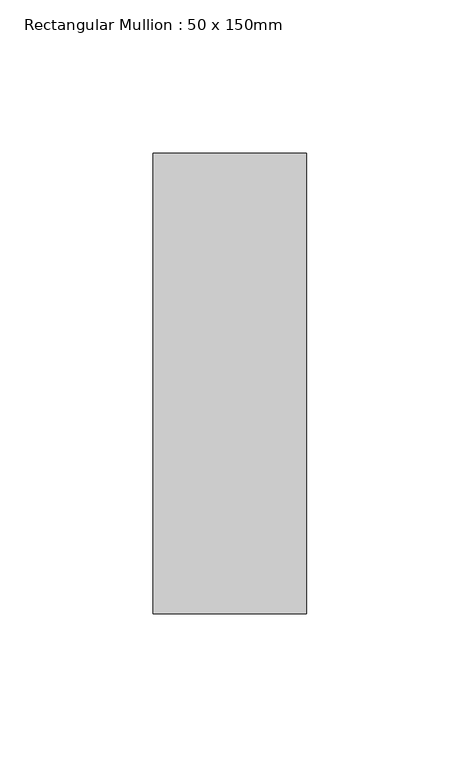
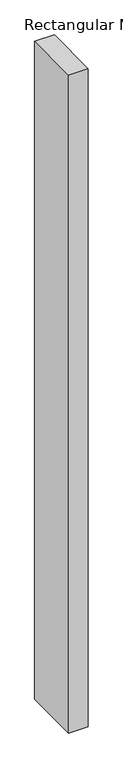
"""IFC4 building model written with IfcOpenShell, lengths in millimetres: member geometry, Rectangular Mullion : 50 x 150mm."""

from ifc_helpers import new_model, si_unit, frame, origin, place, context, project, spatial, polyline, outline, extrude, source, transform, mapped, element, save


def rectangular_mullion_50_x_150mm_dde72c10(model_context):
    return source(origin(), model_context, "Body", "SweptSolid", [
        extrude(outline(polyline([(0.0, 0.0), (0.0895406, -50.0), (-1774.6412205, -50.0), (-1774.5838337, 0.0), (0.0, 0.0)])), frame((0.0, -75.0, 0.0), z_axis=(0.0, 1.0, 0.0), x_axis=(0.0, 0.0, 1.0)), (0.0, 0.0, 1.0), 150.0),
    ])


if __name__ == "__main__":
    model = new_model("IFC4")
    model_context = context("Model", 3, world=origin())
    ifc_project = project(units=[si_unit("LENGTHUNIT", "METRE", prefix="MILLI")], contexts=[model_context])
    site = spatial("IfcSite", under=ifc_project)
    building = spatial("IfcBuilding", under=site)
    placement = place(None, origin())
    rectangular_mullion_50_x_150mm_shape = rectangular_mullion_50_x_150mm_dde72c10(model_context)
    element("IfcMember", 1, ObjectType="Rectangular Mullion : 50 x 150mm", at=placement, inside=building, context=model_context, shape_type="MappedRepresentation", body=[
        mapped(rectangular_mullion_50_x_150mm_shape, transform((0.0, 0.0, 0.0), x_axis=(1.0, 0.0, 0.0), y_axis=(0.0, 1.0, 0.0), z_axis=(0.0, 0.0, 1.0))),
    ])
    save(model, "model.ifc")
